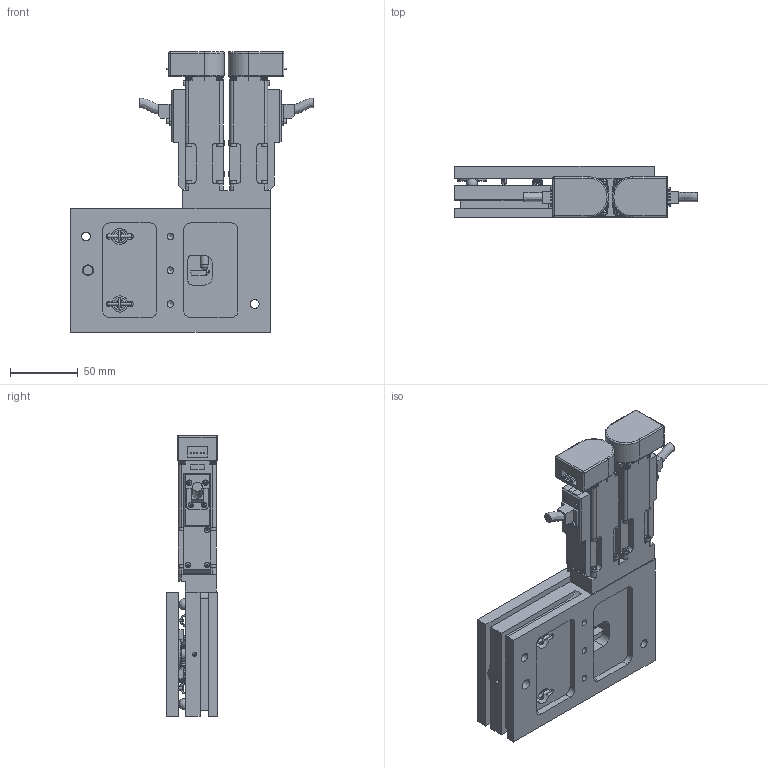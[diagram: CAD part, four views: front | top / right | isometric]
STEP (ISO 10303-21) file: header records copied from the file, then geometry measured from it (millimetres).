
FILE_DESCRIPTION(/* description */ (''),/* implementation_level */ '2;1');
FILE_NAME(/* name */ 'C:\Users\dsgn39.CENTRAS\Desktop\Internetui\8MTP116\8MTP116-MEn1.stp',/* time_stamp */ '2020-01-07T08:18:37+02:00',/* author */ ('dsgn39'),/* organization */ (''),/* preprocessor_version */ 'ST-DEVELOPER v15.2',/* originating_system */ 'Autodesk Inventor 2014',/* authorisation */ '');
FILE_SCHEMA (('AUTOMOTIVE_DESIGN { 1 0 10303 214 3 1 1 }'));
Products named in the file (2): Part4; Assembly2
Bounding box: 180 x 38 x 207.8 mm (x, y, z)
Volume: 605209.5 mm3; surface area: 126313.5 mm2
Topology: 1 solids, 36 shells, 2025 faces, 5257 edges, 3390 vertices
Faces by surface type: plane 1086, cylinder 342, bspline 226, cone 189, torus 136, sphere 46
Full cylindrical faces by diameter (mm): 0.8 x10, 1.783 x6, 2 x18, 2.256 x2, 2.3 x6, 2.4 x10, 2.5 x18, 2.8 x16, 2.9 x2, 3 x2, 3.242 x23, 3.4 x2, 3.8 x14, 4 x13, 4.5 x16, 4.917 x17, 5 x2, 5.5 x2, 6 x2, 6.5 x2, 8 x3, 11 x2, 12 x4, 22 x1
Entity records: 68088 total; most frequent: CARTESIAN_POINT 22938, ORIENTED_EDGE 9328, DIRECTION 8444, EDGE_CURVE 4657, VERTEX_POINT 3204, AXIS2_PLACEMENT_3D 2942, EDGE_LOOP 2740, LINE 2560
